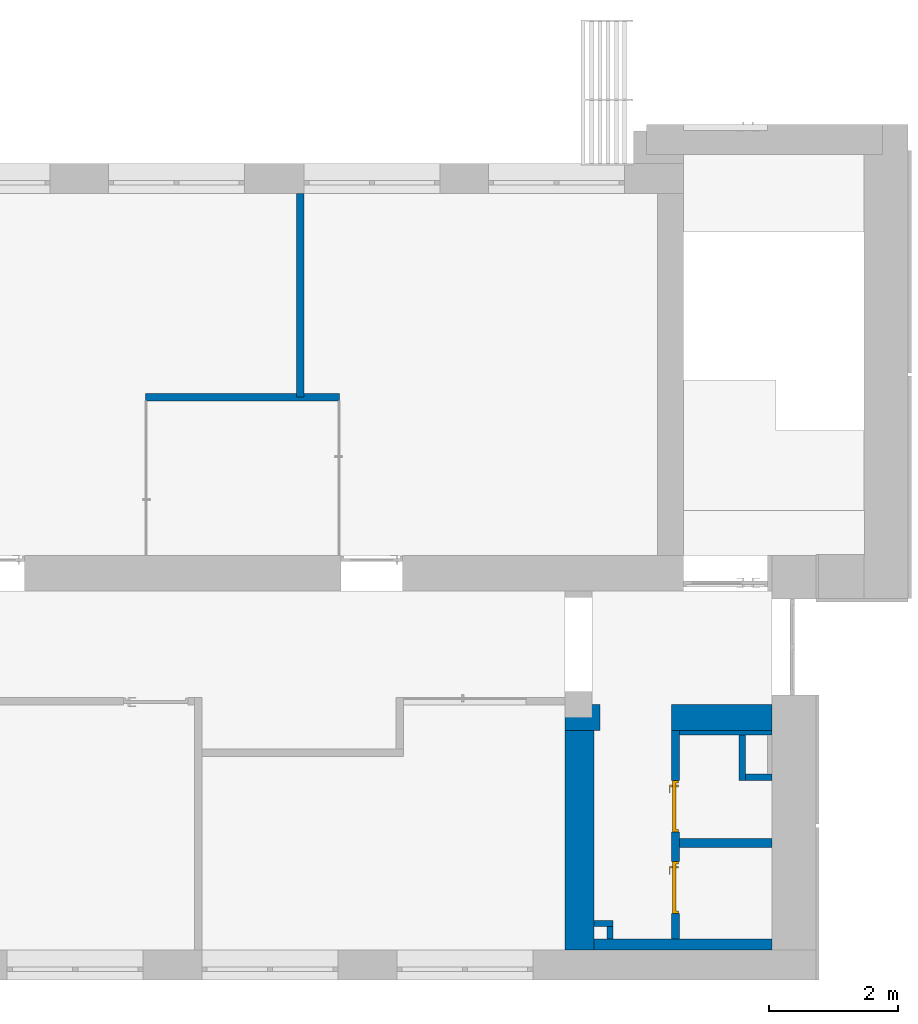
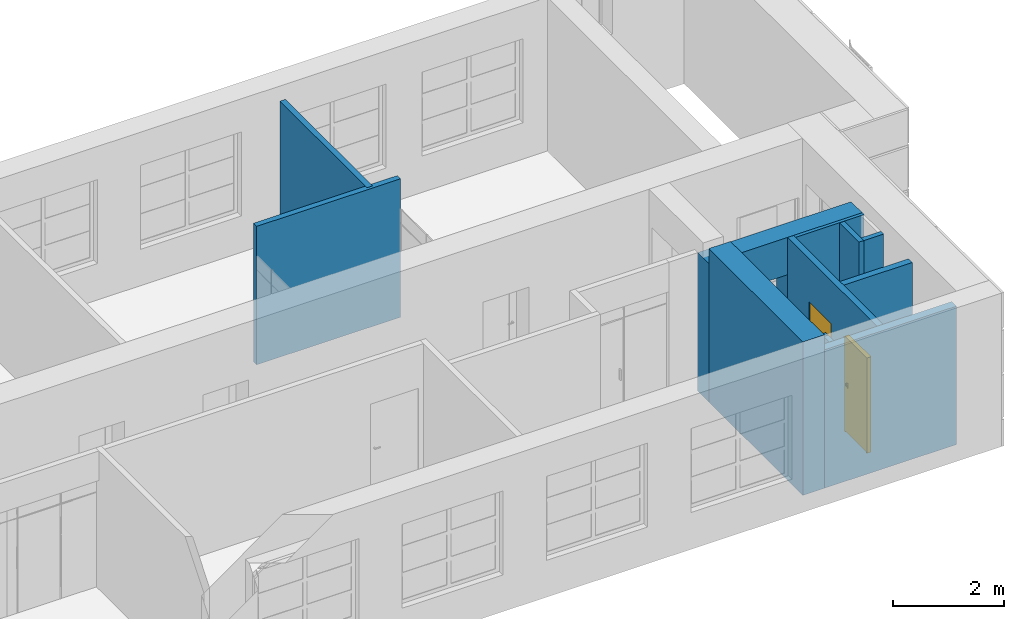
# One storey, part 56 of 66: 12 walls, 2 doors, 13 openings.
"""IFC2X3 building model written with IfcOpenShell, lengths in millimetres."""

import ifcopenshell
import ifcopenshell.guid

model = None  # the IFC model being written
_history = None  # IfcOwnerHistory: only IFC2X3 demands one
_inside = {}  # id of a spatial element -> (the spatial element, [elements in it])
_under = {}  # id of a project, library or spatial element -> (it, [spatial elements below it])
_declared = {}  # id of a project -> (the project, [libraries it declares])
_typed = {}  # id of a type object -> (the type object, [elements of that type])
_made_of = {}  # id of a material, layer set ... -> (it, [elements and type objects made of it])


def new_model(schema):
    """Start an empty IFC model of exactly this schema.

    Asked for "IFC4X3", IfcOpenShell would pick the latest addendum, in which some entities
    have other attributes; the version numbers below select the first issue.
    IFC2X3 requires an IfcOwnerHistory on every rooted entity: one is made here for all.
    """
    global model, _history
    if schema == "IFC4X3":
        model = ifcopenshell.file(schema_version=(4, 3, 0, 0))
    else:
        model = ifcopenshell.file(schema=schema)
    _inside.clear()
    _under.clear()
    _declared.clear()
    _typed.clear()
    _made_of.clear()
    _history = None
    if model.schema == "IFC2X3":
        org = make("IfcOrganization", Name="unknown")
        user = make(
            "IfcPersonAndOrganization",
            ThePerson=make("IfcPerson", FamilyName="unknown"),
            TheOrganization=org,
        )
        app = make(
            "IfcApplication",
            ApplicationDeveloper=org,
            Version="unknown",
            ApplicationFullName="unknown",
            ApplicationIdentifier="unknown",
        )
        _history = make(
            "IfcOwnerHistory",
            OwningUser=user,
            OwningApplication=app,
            ChangeAction="ADDED",
            CreationDate=0,
        )
    return model


def make(cls, **values):
    """One entity of the class cls with the attributes given. An attribute that is None is left unset."""
    return model.create_entity(
        cls, **{name: value for name, value in values.items() if value is not None}
    )


def entity(cls, *values):
    """Any entity or typed value of the class cls, its attributes in the order of the schema. None: left unset."""
    e = model.create_entity(cls)
    for i, value in enumerate(values):
        if value is not None:
            e[i] = value
    return e


def rooted(cls, **values):
    """An entity with a GlobalId (a new one), such as an element, a storey or a relation."""
    return make(cls, GlobalId=ifcopenshell.guid.new(), OwnerHistory=_history, **values)


def si_unit(unit_type, name, prefix=None):
    """IfcSIUnit, for example si_unit("LENGTHUNIT", "METRE", prefix="MILLI")."""
    return make("IfcSIUnit", UnitType=unit_type, Prefix=prefix, Name=name)


def converted_unit(unit_type, name, factor, base, dimensions=None, offset=None):
    """IfcConversionBasedUnit, such as the inch: factor (a typed value) times the base unit."""
    return make(
        "IfcConversionBasedUnit"
        if offset is None
        else "IfcConversionBasedUnitWithOffset",
        ConversionOffset=offset,
        Dimensions=None
        if dimensions is None
        else entity("IfcDimensionalExponents", *dimensions),
        UnitType=unit_type,
        Name=name,
        ConversionFactor=make(
            "IfcMeasureWithUnit", ValueComponent=factor, UnitComponent=base
        ),
    )


def derived_unit(unit_type, elements):
    """IfcDerivedUnit: a product of units, each with its exponent."""
    return make(
        "IfcDerivedUnit",
        Elements=[
            make("IfcDerivedUnitElement", Unit=unit, Exponent=power)
            for unit, power in elements
        ],
        UnitType=unit_type,
    )


def assignment(units):
    """IfcUnitAssignment: the units of a project."""
    return None if units is None else make("IfcUnitAssignment", Units=units)


def point(xyz):
    """IfcCartesianPoint."""
    return None if xyz is None else make("IfcCartesianPoint", Coordinates=xyz)


def direction(xyz):
    """IfcDirection."""
    return None if xyz is None else make("IfcDirection", DirectionRatios=xyz)


def frame(location, z_axis=None, x_axis=None):
    """IfcAxis2Placement3D, a coordinate frame: its origin and axes. An axis left out is left unset."""
    return make(
        "IfcAxis2Placement3D",
        Location=point(location),
        Axis=direction(z_axis),
        RefDirection=direction(x_axis),
    )


def frame_2d(location, x_axis=None):
    """IfcAxis2Placement2D, a coordinate frame in the plane: its origin and x axis."""
    return make(
        "IfcAxis2Placement2D", Location=point(location), RefDirection=direction(x_axis)
    )


def origin():
    """The frame at (0, 0, 0) with its axes left unset."""
    return frame((0.0, 0.0, 0.0))


def origin_2d_with_axis():
    """The frame at (0, 0) in the plane with the x axis (1, 0) written out."""
    return frame_2d((0.0, 0.0), x_axis=(1.0, 0.0))


def place(relative_to, where):
    """IfcLocalPlacement: puts the frame where relative to a parent placement (None: the world)."""
    return make(
        "IfcLocalPlacement", PlacementRelTo=relative_to, RelativePlacement=where
    )


def context(
    kind, dimensions, precision=None, world=None, true_north=None, identifier=None
):
    """IfcGeometricRepresentationContext, for example the 3D "Model" context."""
    return make(
        "IfcGeometricRepresentationContext",
        ContextIdentifier=identifier,
        ContextType=kind,
        CoordinateSpaceDimension=dimensions,
        Precision=precision,
        WorldCoordinateSystem=world,
        TrueNorth=true_north,
    )


def subcontext(parent, identifier, kind, view, scale=None):
    """IfcGeometricRepresentationSubContext, for example "Body" below "Model"."""
    return make(
        "IfcGeometricRepresentationSubContext",
        ContextIdentifier=identifier,
        ContextType=kind,
        ParentContext=parent,
        TargetScale=scale,
        TargetView=view,
    )


def project(units=None, contexts=None):
    """IfcProject with its units and contexts."""
    return rooted(
        "IfcProject",
        Name="project",
        RepresentationContexts=contexts,
        UnitsInContext=assignment(units),
    )


def spatial(cls, under=None, at=None, **own):
    """A site, building, storey or space (cls), placed at a placement, below another one or the project."""
    s = rooted(cls, ObjectPlacement=at, **own)
    if under is not None:
        _under.setdefault(under.id(), (under, []))[1].append(s)
    return s


def polyline(points):
    """IfcPolyline through the points."""
    return make("IfcPolyline", Points=[point(p) for p in points])


def profile(cls, at=None, kind="AREA", **sizes):
    """A parametric profile (cls). Its sizes go by their IFC names, for example OverallWidth=200.0."""
    return make(cls, ProfileType=kind, Position=at, **sizes)


def rectangle(**sizes):
    """IfcRectangleProfileDef."""
    return profile("IfcRectangleProfileDef", **sizes)


def extrude(swept, where, along, depth):
    """IfcExtrudedAreaSolid: the profile swept, set in the frame where, extruded along a direction by depth."""
    return make(
        "IfcExtrudedAreaSolid",
        SweptArea=swept,
        Position=where,
        ExtrudedDirection=direction(along),
        Depth=depth,
    )


def clip(a, b, op="DIFFERENCE"):
    """IfcBooleanClippingResult: the solid a cut by the half space b."""
    return make(
        "IfcBooleanClippingResult", Operator=op, FirstOperand=a, SecondOperand=b
    )


def bounded_halfspace(plane, agree, where, boundary):
    """IfcPolygonalBoundedHalfSpace: a half space limited to a polygon's prism."""
    return make(
        "IfcPolygonalBoundedHalfSpace",
        BaseSurface=make("IfcPlane", Position=plane),
        AgreementFlag=agree,
        Position=where,
        PolygonalBoundary=boundary,
    )


def faces_of(points, faces, orient=None, outer=None):
    """IfcFace entities. A face is a list of loops; a loop is a list of indices into points, from 0.

    orient and outer hold one flag for each loop. By default every Orientation is true, the
    first loop of a face is its IfcFaceOuterBound and the others are IfcFaceBound.
    """
    made = []
    for i, loops in enumerate(faces):
        bounds = []
        for j, loop in enumerate(loops):
            is_outer = j == 0 if outer is None else outer[i][j]
            bounds.append(
                make(
                    "IfcFaceOuterBound" if is_outer else "IfcFaceBound",
                    Bound=make("IfcPolyLoop", Polygon=[points[k] for k in loop]),
                    Orientation=True if orient is None else orient[i][j],
                )
            )
        made.append(make("IfcFace", Bounds=bounds))
    return made


def faceted_brep(points, faces, orient=None, outer=None, voids=None):
    """IfcFacetedBrep: a solid bounded by flat faces; with voids (closed shells), ...WithVoids."""
    shared = [point(p) for p in points]
    hull = make("IfcClosedShell", CfsFaces=faces_of(shared, faces, orient, outer))
    if voids is None:
        return make("IfcFacetedBrep", Outer=hull)
    return make(
        "IfcFacetedBrepWithVoids",
        Outer=hull,
        Voids=[
            make(cls, CfsFaces=faces_of(shared, fs, o, b)) for cls, fs, o, b in voids
        ],
    )


def shape(context_of_items, identifier, shape_type, items):
    """IfcShapeRepresentation: the items that make up one representation, for example the "Body"."""
    return make(
        "IfcShapeRepresentation",
        ContextOfItems=context_of_items,
        RepresentationIdentifier=identifier,
        RepresentationType=shape_type,
        Items=items,
    )


def source(mapping_origin, context_of_items, identifier, shape_type, items):
    """IfcRepresentationMap: a shape defined once, which mapped items show again and again."""
    return make(
        "IfcRepresentationMap",
        MappingOrigin=mapping_origin,
        MappedRepresentation=shape(context_of_items, identifier, shape_type, items),
    )


def transform(
    local_origin,
    x_axis=None,
    y_axis=None,
    z_axis=None,
    scale=None,
    scale2=None,
    scale3=None,
    uniform=True,
):
    """IfcCartesianTransformationOperator3D, or its non-uniform kind. x_axis, y_axis, z_axis: its Axis1, 2, 3."""
    if uniform:
        return make(
            "IfcCartesianTransformationOperator3D",
            Axis1=direction(x_axis),
            Axis2=direction(y_axis),
            LocalOrigin=point(local_origin),
            Scale=scale,
            Axis3=direction(z_axis),
        )
    return make(
        "IfcCartesianTransformationOperator3DnonUniform",
        Axis1=direction(x_axis),
        Axis2=direction(y_axis),
        LocalOrigin=point(local_origin),
        Scale=scale,
        Axis3=direction(z_axis),
        Scale2=scale2,
        Scale3=scale3,
    )


def mapped(mapping_source, mapping_target):
    """IfcMappedItem: shows the shape of a source again, moved by a transform."""
    return make(
        "IfcMappedItem", MappingSource=mapping_source, MappingTarget=mapping_target
    )


def material(Name=None, Category=None):
    """IfcMaterial."""
    return make("IfcMaterial", Name=Name, Category=Category)


def material_list(materials):
    """IfcMaterialList."""
    return make("IfcMaterialList", Materials=materials)


def layer(
    of_material, thickness, ventilated=None, Name=None, Category=None, Priority=None
):
    """IfcMaterialLayer: one layer of a wall or slab, of a material (None: an air gap)."""
    return make(
        "IfcMaterialLayer",
        Material=of_material,
        LayerThickness=thickness,
        IsVentilated=ventilated,
        Name=Name,
        Category=Category,
        Priority=Priority,
    )


def layer_set(layers, Name=None):
    """IfcMaterialLayerSet."""
    return make("IfcMaterialLayerSet", MaterialLayers=layers, LayerSetName=Name)


def layer_usage(for_layer_set, set_direction, sense, offset, extent=None):
    """IfcMaterialLayerSetUsage: how a layer set lies in its element."""
    return make(
        "IfcMaterialLayerSetUsage",
        ForLayerSet=for_layer_set,
        LayerSetDirection=set_direction,
        DirectionSense=sense,
        OffsetFromReferenceLine=offset,
        ReferenceExtent=extent,
    )


def made_of(thing, what):
    """Note that an element or type object is made of a material, layer set ...; save() writes the relation."""
    if what is not None:
        _made_of.setdefault(what.id(), (what, []))[1].append(thing)
    return thing


def type_object(cls, material=None, **own):
    """A type object (cls), such as IfcWallType, which elements share."""
    return made_of(rooted(cls, **own), material)


def type_shapes(of_type, sources):
    """Give a type object the sources (RepresentationMaps) that its elements show as mapped items."""
    of_type.RepresentationMaps = sources


def element(
    cls,
    number,
    at=None,
    inside=None,
    cuts=None,
    type_object=None,
    material=None,
    context=None,
    identifier="Body",
    shape_type=None,
    held_by="IfcProductDefinitionShape",
    body=None,
    shapes=None,
    **own,
):
    """One element of the class cls, such as IfcWall. Its Tag is "e" and its number.

    at: its placement. inside: the storey or other place that contains it. cuts: it is an
    opening in that element (IfcRelVoidsElement). A single representation is given by context,
    identifier, shape_type and body (its items); several are given by shapes. held_by: the class
    of the entity that holds the representations. save() writes the other relations.
    """
    e = rooted(cls, Tag="e%d" % number, ObjectPlacement=at, **own)
    if body is not None:
        shapes = [shape(context, identifier, shape_type, body)]
    if shapes is not None:
        e.Representation = make(held_by, Representations=shapes)
    if inside is not None:
        _inside.setdefault(inside.id(), (inside, []))[1].append(e)
    if cuts is not None:
        rooted(
            "IfcRelVoidsElement", RelatingBuildingElement=cuts, RelatedOpeningElement=e
        )
    if type_object is not None:
        _typed.setdefault(type_object.id(), (type_object, []))[1].append(e)
    return made_of(e, material)


def fill(opening, filler):
    """IfcRelFillsElement: the door or window that sits in an opening."""
    return rooted(
        "IfcRelFillsElement",
        RelatingOpeningElement=opening,
        RelatedBuildingElement=filler,
    )


def aggregate(whole, parts):
    """IfcRelAggregates: a whole, such as a stair, and the parts it consists of."""
    return rooted("IfcRelAggregates", RelatingObject=whole, RelatedObjects=parts)


def save(model, path):
    """Write the relations noted so far, then the file.

    IfcRelAggregates (storeys below a building ...), IfcRelContainedInSpatialStructure (elements
    in a storey), IfcRelDefinesByType, IfcRelAssociatesMaterial and IfcRelDeclares: one each for
    every whole, place, type object, material and project.
    """
    for whole, parts in _under.values():
        aggregate(whole, parts)
    for where, things in _inside.values():
        rooted(
            "IfcRelContainedInSpatialStructure",
            RelatedElements=things,
            RelatingStructure=where,
        )
    for kind, things in _typed.values():
        rooted("IfcRelDefinesByType", RelatedObjects=things, RelatingType=kind)
    for what, things in _made_of.values():
        rooted("IfcRelAssociatesMaterial", RelatedObjects=things, RelatingMaterial=what)
    for by, libraries in _declared.values():
        rooted("IfcRelDeclares", RelatingContext=by, RelatedDefinitions=libraries)
    model.write(path)


model = new_model("IFC2X3")

# Units and contexts
model_context = context("Model", 3, precision=0.01, world=origin(), true_north=direction((6.12303176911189e-17, 1.0)))
body_context = subcontext(model_context, "Body", "Model", "MODEL_VIEW")
ifc_project = project(units=[si_unit("LENGTHUNIT", "METRE", prefix="MILLI"), si_unit("AREAUNIT", "SQUARE_METRE"), si_unit("VOLUMEUNIT", "CUBIC_METRE"), converted_unit("PLANEANGLEUNIT", "DEGREE", entity("IfcRatioMeasure", 0.0174532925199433), si_unit("PLANEANGLEUNIT", "RADIAN"), dimensions=[0, 0, 0, 0, 0, 0, 0]), si_unit("MASSUNIT", "GRAM", prefix="KILO"), derived_unit("MASSDENSITYUNIT", [(si_unit("MASSUNIT", "GRAM", prefix="KILO"), 1), (si_unit("LENGTHUNIT", "METRE"), -3)]), si_unit("TIMEUNIT", "SECOND"), si_unit("FREQUENCYUNIT", "HERTZ"), si_unit("THERMODYNAMICTEMPERATUREUNIT", "DEGREE_CELSIUS"), derived_unit("THERMALTRANSMITTANCEUNIT", [(si_unit("MASSUNIT", "GRAM", prefix="KILO"), 1), (si_unit("THERMODYNAMICTEMPERATUREUNIT", "KELVIN"), -1), (si_unit("TIMEUNIT", "SECOND"), -3)]), derived_unit("VOLUMETRICFLOWRATEUNIT", [(si_unit("LENGTHUNIT", "METRE"), 3), (si_unit("TIMEUNIT", "SECOND"), -1)]), si_unit("ELECTRICCURRENTUNIT", "AMPERE"), si_unit("ELECTRICVOLTAGEUNIT", "VOLT"), si_unit("POWERUNIT", "WATT"), si_unit("FORCEUNIT", "NEWTON", prefix="KILO"), si_unit("ILLUMINANCEUNIT", "LUX"), si_unit("LUMINOUSFLUXUNIT", "LUMEN"), si_unit("LUMINOUSINTENSITYUNIT", "CANDELA"), derived_unit("USERDEFINED", [(si_unit("MASSUNIT", "GRAM", prefix="KILO"), -1), (si_unit("LENGTHUNIT", "METRE"), -2), (si_unit("TIMEUNIT", "SECOND"), 3), (si_unit("LUMINOUSFLUXUNIT", "LUMEN"), 1)]), derived_unit("LINEARVELOCITYUNIT", [(si_unit("LENGTHUNIT", "METRE"), 1), (si_unit("TIMEUNIT", "SECOND"), -1)]), si_unit("PRESSUREUNIT", "PASCAL"), derived_unit("USERDEFINED", [(si_unit("LENGTHUNIT", "METRE"), -2), (si_unit("MASSUNIT", "GRAM", prefix="KILO"), 1), (si_unit("TIMEUNIT", "SECOND"), -2)])], contexts=[model_context])

# Site, building, storey
site_placement = place(None, frame((-151.875543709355, 2715.0, 0.0)))
site = spatial("IfcSite", under=ifc_project, at=site_placement, Name="Surface", CompositionType="ELEMENT")
building_placement = place(site_placement, origin())
building = spatial("IfcBuilding", under=site, at=building_placement, CompositionType="ELEMENT")
storey_placement = place(building_placement, frame((0.0, 0.0, 3350.0)))
storey = spatial("IfcBuildingStorey", under=building, at=storey_placement, Name="2 korrus", CompositionType="ELEMENT", Elevation=3350.00000000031)

# Wall, opening
ifc_material_1 = material(Name="__Hall krohv")
ifc_layer_1 = layer(ifc_material_1, 10.0)
ifc_material_2 = material(Name="Tellis")
ifc_layer_2 = layer(ifc_material_2, 380.0)
ifc_layer_3 = layer(ifc_material_1, 10.0)
ifc_layer_set_1 = layer_set([ifc_layer_1, ifc_layer_2, ifc_layer_3], Name="Basic Wall:SS-01_ol.olev tellissein400")
ifc_layer_usage_1 = layer_usage(ifc_layer_set_1, "AXIS2", "NEGATIVE", 200.0)
wall_type_1 = type_object("IfcWallType", Name="Basic Wall:SS-01_ol.olev tellissein400", PredefinedType="STANDARD", material=ifc_layer_set_1)
wall_1_placement = place(storey_placement, frame((33741.6162682, 4053.84289844, 0.0), z_axis=(0.0, 0.0, 1.0), x_axis=(-1.0, 0.0, 0.0)))
wall_1 = element("IfcWallStandardCase", 1, at=wall_1_placement, inside=storey, type_object=wall_type_1, material=ifc_layer_usage_1, Name="SEIN - 002", ObjectType="Basic Wall:SS-01_ol.olev tellissein400", context=body_context, shape_type="SweptSolid", body=[
    extrude(rectangle(XDim=3197.5991088, YDim=400.0, at=frame_2d((1598.7995544, 0.0), x_axis=(-1.0, 0.0))), origin(), (0.0, 0.0, 1.0), 3050.43203354),
])
opening_1_placement = place(wall_1_placement, origin())
element("IfcOpeningElement", 2, at=opening_1_placement, cuts=wall_1, Name="SEIN - 002", ObjectType="Opening", context=body_context, shape_type="SweptSolid", body=[
    extrude(rectangle(XDim=2230.43203354, YDim=1100.07592736, at=frame_2d((2.27373675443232e-13, 2.1600499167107e-12), x_axis=(1.0, 0.0))), frame((2105.43835439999, -200.0, 1115.21601677), z_axis=(0.0, 1.0, 0.0), x_axis=(0.0, 0.0, -1.0)), (0.0, 0.0, 1.0), 400.0),
])

# Walls
ifc_layer_4 = layer(ifc_material_1, 10.0)
ifc_layer_5 = layer(ifc_material_2, 430.0)
ifc_layer_6 = layer(ifc_material_1, 10.0)
ifc_layer_set_2 = layer_set([ifc_layer_4, ifc_layer_5, ifc_layer_6], Name="Basic Wall:SS-01_ol.olev tellissein450")
ifc_layer_usage_2 = layer_usage(ifc_layer_set_2, "AXIS2", "NEGATIVE", 225.0)
wall_type_2 = type_object("IfcWallType", Name="Basic Wall:SS-01_ol.olev tellissein450", PredefinedType="STANDARD", material=ifc_layer_set_2)
wall_2_placement = place(storey_placement, frame((30769.0171594, 4307.04493399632, 0.0), z_axis=(0.0, 0.0, 1.0), x_axis=(0.0, -1.0, 0.0)))
element("IfcWallStandardCase", 3, at=wall_2_placement, inside=storey, type_object=wall_type_2, material=ifc_layer_usage_2, Name="SEIN - 002", ObjectType="Basic Wall:SS-01_ol.olev tellissein450", context=body_context, shape_type="SweptSolid", body=[
    extrude(rectangle(XDim=3393.93826587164, YDim=450.000000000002, at=frame_2d((2150.17116849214, 0.0), x_axis=(-1.0, 0.0))), origin(), (0.0, 0.0, 1.0), 3380.43203354),
])
ifc_material_3 = material(Name="__Kips GN13_tava")
ifc_layer_7 = layer(ifc_material_3, 12.5)
ifc_layer_8 = layer(ifc_material_3, 12.5)
ifc_material_4 = material(Name="__Soojustus EPS")
ifc_layer_9 = layer(ifc_material_4, 66.0)
ifc_layer_10 = layer(ifc_material_3, 12.5)
ifc_layer_11 = layer(ifc_material_3, 12.5)
ifc_layer_set_3 = layer_set([ifc_layer_7, ifc_layer_8, ifc_layer_9, ifc_layer_10, ifc_layer_11], Name="Basic Wall:SS-3_Kipssein tava ruumide vahel")
ifc_layer_usage_3 = layer_usage(ifc_layer_set_3, "AXIS2", "NEGATIVE", 58.0)
wall_type_3 = type_object("IfcWallType", Name="Basic Wall:SS-3_Kipssein tava ruumide vahel", PredefinedType="STANDARD", material=ifc_layer_set_3)
wall_3_placement = place(storey_placement, frame((26455.0530977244, 12150.0, 0.0), z_axis=(0.0, 0.0, 1.0), x_axis=(0.0, -1.0, 0.0)))
element("IfcWallStandardCase", 4, at=wall_3_placement, inside=storey, type_object=wall_type_3, material=ifc_layer_usage_3, Name="Basic Wall:SS-3_Kipssein tava ruumide vahel", ObjectType="Basic Wall:SS-3_Kipssein tava ruumide vahel", context=body_context, shape_type="SweptSolid", body=[
    extrude(rectangle(XDim=3148.0000000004, YDim=116.0, at=frame_2d((1574.0000000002, 1.74793512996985e-12), x_axis=(-1.0, 0.0))), origin(), (0.0, 0.0, 1.0), 3050.0),
])
ifc_layer_usage_4 = layer_usage(ifc_layer_set_3, "AXIS2", "NEGATIVE", 58.0)
wall_4_placement = place(storey_placement, frame((27063.2859998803, 9003.0, 0.0), z_axis=(0.0, 0.0, 1.0), x_axis=(-1.0, 0.0, 0.0)))
element("IfcWallStandardCase", 5, at=wall_4_placement, inside=storey, type_object=wall_type_3, material=ifc_layer_usage_4, Name="Basic Wall:SS-3_Kipssein tava ruumide vahel", ObjectType="Basic Wall:SS-3_Kipssein tava ruumide vahel", context=body_context, shape_type="Clipping", body=[
    clip(extrude(rectangle(XDim=3000.00000000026, YDim=116.0, at=frame_2d((1500.00000000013, 3.90798504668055e-14), x_axis=(-1.0, 0.0))), origin(), (0.0, 0.0, 1.0), 3050.0), bounded_halfspace(frame((666.232902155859, 1.0, 0.0), z_axis=(0.0, 1.0, 0.0), x_axis=(-1.0, 0.0, 0.0)), True, frame((666.232902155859, 1.0, 0.0), z_axis=(0.0, 1.0, 0.0), x_axis=(-1.0, 0.0, 0.0)), polyline([(0.0, 0.0), (116.0, 0.0), (116.0, 3050.0), (0.0, 3050.0), (0.0, 0.0)]))),
])

# Wall, openings
ifc_layer_12 = layer(ifc_material_2, 160.0)
ifc_layer_13 = layer(ifc_material_1, 10.0)
ifc_layer_set_4 = layer_set([ifc_layer_12, ifc_layer_13], Name="Basic Wall:SS-01_ol.olev tellissein170")
ifc_layer_usage_5 = layer_usage(ifc_layer_set_4, "AXIS2", "NEGATIVE", 85.0)
wall_type_4 = type_object("IfcWallType", Name="Basic Wall:SS-01_ol.olev tellissein170", PredefinedType="STANDARD", material=ifc_layer_set_4)
wall_5_placement = place(storey_placement, frame((33741.6162682, 544.904632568, 0.0), z_axis=(0.0, 0.0, 1.0), x_axis=(-1.0, 0.0, 0.0)))
wall_5 = element("IfcWallStandardCase", 6, at=wall_5_placement, inside=storey, type_object=wall_type_4, material=ifc_layer_usage_5, Name="SEIN - 001", ObjectType="Basic Wall:SS-01_ol.olev tellissein170", context=body_context, shape_type="SweptSolid", body=[
    extrude(rectangle(XDim=2747.5991088, YDim=170.0, at=frame_2d((1373.7995544, 0.0), x_axis=(-1.0, 0.0))), origin(), (0.0, 0.0, 1.0), 3048.26104657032),
])
opening_2_placement = place(wall_5_placement, origin())
element("IfcOpeningElement", 7, at=opening_2_placement, cuts=wall_5, Name="SEIN - 001", ObjectType="Opening", context=body_context, shape_type="SweptSolid", body=[
    extrude(rectangle(XDim=1850.0, YDim=2100.0, at=frame_2d((-2.8421709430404e-13, 1.02318153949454e-12), x_axis=(1.0, 0.0))), frame((22792.0515417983, -382.900000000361, 1734.628696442), z_axis=(0.0, 1.0, 0.0), x_axis=(0.0, 0.0, 1.0)), (0.0, 0.0, 1.0), 1393.8),
])
opening_3_placement = place(wall_5_placement, origin())
element("IfcOpeningElement", 8, at=opening_3_placement, cuts=wall_5, Name="SEIN - 001", ObjectType="Opening", context=body_context, shape_type="SweptSolid", body=[
    extrude(rectangle(XDim=1850.0, YDim=2100.0, at=frame_2d((-2.8421709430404e-13, 5.6843418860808e-13), x_axis=(1.0, 0.0))), frame((25792.0515418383, -382.900000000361, 1734.628696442), z_axis=(0.0, 1.0, 0.0), x_axis=(0.0, 0.0, 1.0)), (0.0, 0.0, 1.0), 1393.8),
])
opening_4_placement = place(wall_5_placement, origin())
element("IfcOpeningElement", 9, at=opening_4_placement, cuts=wall_5, Name="SEIN - 001", ObjectType="Opening", context=body_context, shape_type="SweptSolid", body=[
    extrude(rectangle(XDim=1850.0, YDim=2100.0, at=frame_2d((-2.8421709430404e-13, 0.0), x_axis=(1.0, 0.0))), frame((19792.0515417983, -382.900000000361, 1734.628696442), z_axis=(0.0, 1.0, 0.0), x_axis=(0.0, 0.0, 1.0)), (0.0, 0.0, 1.0), 1393.8),
])
opening_5_placement = place(wall_5_placement, origin())
element("IfcOpeningElement", 10, at=opening_5_placement, cuts=wall_5, Name="SEIN - 001", ObjectType="Opening", context=body_context, shape_type="SweptSolid", body=[
    extrude(rectangle(XDim=1850.0, YDim=2100.0, at=frame_2d((-2.8421709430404e-13, 1.02318153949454e-12), x_axis=(1.0, 0.0))), frame((16772.0515417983, -382.900000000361, 1734.628696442), z_axis=(0.0, 1.0, 0.0), x_axis=(0.0, 0.0, 1.0)), (0.0, 0.0, 1.0), 1393.8),
])
opening_6_placement = place(wall_5_placement, origin())
element("IfcOpeningElement", 11, at=opening_6_placement, cuts=wall_5, Name="SEIN - 001", ObjectType="Opening", context=body_context, shape_type="SweptSolid", body=[
    extrude(rectangle(XDim=1850.0, YDim=2100.0, at=frame_2d((-2.8421709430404e-13, 0.0), x_axis=(1.0, 0.0))), frame((13762.0515417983, -382.900000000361, 1734.628696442), z_axis=(0.0, 1.0, 0.0), x_axis=(0.0, 0.0, 1.0)), (0.0, 0.0, 1.0), 1393.8),
])
opening_7_placement = place(wall_5_placement, origin())
element("IfcOpeningElement", 12, at=opening_7_placement, cuts=wall_5, Name="SEIN - 001", ObjectType="Opening", context=body_context, shape_type="SweptSolid", body=[
    extrude(rectangle(XDim=1850.0, YDim=2100.0, at=frame_2d((-2.8421709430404e-13, 0.0), x_axis=(1.0, 0.0))), frame((10762.0515417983, -382.900000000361, 1734.628696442), z_axis=(0.0, 1.0, 0.0), x_axis=(0.0, 0.0, 1.0)), (0.0, 0.0, 1.0), 1393.8),
])
opening_8_placement = place(wall_5_placement, origin())
element("IfcOpeningElement", 13, at=opening_8_placement, cuts=wall_5, Name="SEIN - 001", ObjectType="Opening", context=body_context, shape_type="SweptSolid", body=[
    extrude(rectangle(XDim=1850.0, YDim=2100.0, at=frame_2d((-2.8421709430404e-13, 0.0), x_axis=(1.0, 0.0))), frame((7752.05154179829, -382.900000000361, 1734.628696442), z_axis=(0.0, 1.0, 0.0), x_axis=(0.0, 0.0, 1.0)), (0.0, 0.0, 1.0), 1393.8),
])
opening_9_placement = place(wall_5_placement, origin())
element("IfcOpeningElement", 14, at=opening_9_placement, cuts=wall_5, Name="SEIN - 001", ObjectType="Opening", context=body_context, shape_type="SweptSolid", body=[
    extrude(rectangle(XDim=1850.0, YDim=2100.0, at=frame_2d((-2.8421709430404e-13, 0.0), x_axis=(1.0, 0.0))), frame((4742.05154179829, -382.900000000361, 1734.628696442), z_axis=(0.0, 1.0, 0.0), x_axis=(0.0, 0.0, 1.0)), (0.0, 0.0, 1.0), 1393.8),
])
opening_10_placement = place(wall_5_placement, origin())
element("IfcOpeningElement", 15, at=opening_10_placement, cuts=wall_5, Name="SEIN - 001", ObjectType="Opening", context=body_context, shape_type="SweptSolid", body=[
    extrude(rectangle(XDim=2124.86776352, YDim=4200.0, at=frame_2d((2.27373675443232e-13, -5.6843418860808e-13), x_axis=(0.0, 1.0))), frame((30257.7624512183, -383.200000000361, 1872.43388176), z_axis=(0.0, 1.0, 0.0), x_axis=(1.0, 0.0, 0.0)), (0.0, 0.0, 1.0), 1393.8),
])
opening_11_placement = place(wall_5_placement, origin())
element("IfcOpeningElement", 16, at=opening_11_placement, cuts=wall_5, Name="SEIN - 001", ObjectType="Opening", context=body_context, shape_type="SweptSolid", body=[
    extrude(rectangle(XDim=445.564270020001, YDim=4200.0, at=origin_2d_with_axis()), frame((30257.7624512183, -383.200000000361, 3157.64989853), z_axis=(0.0, 1.0, 0.0), x_axis=(0.0, 0.0, -1.0)), (0.0, 0.0, 1.0), 1393.8),
])

# Walls
ifc_layer_14 = layer(ifc_material_2, 60.0)
ifc_layer_15 = layer(ifc_material_1, 10.0)
ifc_layer_set_5 = layer_set([ifc_layer_14, ifc_layer_15], Name="Basic Wall:SS-01_ol.olev tellissein70")
ifc_layer_usage_6 = layer_usage(ifc_layer_set_5, "AXIS2", "NEGATIVE", 35.0)
wall_type_5 = type_object("IfcWallType", Name="Basic Wall:SS-01_ol.olev tellissein70", PredefinedType="STANDARD", material=ifc_layer_set_5)
wall_6_placement = place(storey_placement, frame((32312.2158775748, 3818.84289844, 0.0)))
element("IfcWallStandardCase", 17, at=wall_6_placement, inside=storey, type_object=wall_type_5, material=ifc_layer_usage_6, Name="SEIN - 002", ObjectType="Basic Wall:SS-01_ol.olev tellissein70", context=body_context, shape_type="SweptSolid", body=[
    extrude(rectangle(XDim=1429.40039062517, YDim=70.0000000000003, at=frame_2d((714.700195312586, 0.0), x_axis=(-1.0, 0.0))), origin(), (0.0, 0.0, 1.0), 3051.38700775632),
])
ifc_material_5 = material(Name="Keraamiline_plaat")
ifc_layer_16 = layer(ifc_material_5, 10.0)
ifc_material_6 = material(Name="__Kips GKB_niiskuskindel")
ifc_layer_17 = layer(ifc_material_6, 12.5)
ifc_layer_18 = layer(ifc_material_6, 12.5)
ifc_layer_19 = layer(ifc_material_4, 66.0)
ifc_layer_20 = layer(ifc_material_6, 12.5)
ifc_layer_21 = layer(ifc_material_6, 12.5)
ifc_layer_22 = layer(ifc_material_5, 10.0)
ifc_layer_set_6 = layer_set([ifc_layer_16, ifc_layer_17, ifc_layer_18, ifc_layer_19, ifc_layer_20, ifc_layer_21, ifc_layer_22], Name="Basic Wall:SS-5_Kipssein niiskete ruumide vahel")
ifc_layer_usage_7 = layer_usage(ifc_layer_set_6, "AXIS2", "NEGATIVE", 68.0)
wall_type_6 = type_object("IfcWallType", Name="Basic Wall:SS-5_Kipssein niiskete ruumide vahel", PredefinedType="STANDARD", material=ifc_layer_set_6)
wall_7_placement = place(storey_placement, frame((33741.6162682, 2115.77522812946, 0.0), z_axis=(0.0, 0.0, 1.0), x_axis=(-1.0, 0.0, 0.0)))
element("IfcWallStandardCase", 18, at=wall_7_placement, inside=storey, type_object=wall_type_6, material=ifc_layer_usage_7, Name="Basic Wall:SS-5_Kipssein niiskete ruumide vahel", ObjectType="Basic Wall:SS-5_Kipssein niiskete ruumide vahel", context=body_context, shape_type="SweptSolid", body=[
    extrude(rectangle(XDim=1429.40039062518, YDim=136.0, at=frame_2d((714.700195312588, 0.0), x_axis=(-1.0, 0.0))), origin(), (0.0, 0.0, 1.0), 3050.0),
])

# Wall, openings, doors
ifc_layer_23 = layer(ifc_material_3, 12.5)
ifc_layer_24 = layer(ifc_material_3, 12.5)
ifc_layer_25 = layer(ifc_material_4, 66.0)
ifc_layer_26 = layer(ifc_material_6, 12.5)
ifc_layer_27 = layer(ifc_material_6, 12.5)
ifc_layer_28 = layer(ifc_material_5, 10.0)
ifc_layer_set_7 = layer_set([ifc_layer_23, ifc_layer_24, ifc_layer_25, ifc_layer_26, ifc_layer_27, ifc_layer_28], Name="Basic Wall:SS-4_Kipssein tava ja niiske ruumi vahel")
ifc_layer_usage_8 = layer_usage(ifc_layer_set_7, "AXIS2", "NEGATIVE", 63.0)
wall_type_7 = type_object("IfcWallType", Name="Basic Wall:SS-4_Kipssein tava ja niiske ruumi vahel", PredefinedType="STANDARD", material=ifc_layer_set_7)
wall_8_placement = place(storey_placement, frame((32249.2158775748, 629.904632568, 0.0), z_axis=(0.0, 0.0, 1.0), x_axis=(0.0, 1.0, 0.0)))
wall_8 = element("IfcWallStandardCase", 19, at=wall_8_placement, inside=storey, type_object=wall_type_7, material=ifc_layer_usage_8, Name="Basic Wall:SS-4_Kipssein tava ja niiske ruumi vahel", ObjectType="Basic Wall:SS-4_Kipssein tava ja niiske ruumi vahel", context=body_context, shape_type="SweptSolid", body=[
    extrude(rectangle(XDim=3223.938265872, YDim=125.999999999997, at=frame_2d((1611.969132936, 0.0), x_axis=(-1.0, 0.0))), origin(), (0.0, 0.0, 1.0), 3050.0),
])
opening_12_placement = place(wall_8_placement, frame((397.813171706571, -63.0, 0.0)))
opening_12 = element("IfcOpeningElement", 20, at=opening_12_placement, cuts=wall_8, Name="Ühepoolsed:SU-05:1", ObjectType="Opening", context=body_context, shape_type="SweptSolid", body=[
    extrude(rectangle(XDim=2099.99999999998, YDim=800.0, at=frame_2d((1049.99999999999, 400.0), x_axis=(1.0, 0.0))), frame((0.0, 0.0, 0.0), z_axis=(0.0, 1.0, 0.0), x_axis=(0.0, 0.0, 1.0)), (0.0, 0.0, 1.0), 126.0),
])
opening_13_placement = place(wall_8_placement, frame((1653.87059556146, -63.0, 0.0)))
opening_13 = element("IfcOpeningElement", 21, at=opening_13_placement, cuts=wall_8, Name="Ühepoolsed:SU-05:1", ObjectType="Opening", context=body_context, shape_type="SweptSolid", body=[
    extrude(rectangle(XDim=2099.99999999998, YDim=800.0, at=frame_2d((1049.99999999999, 400.0), x_axis=(1.0, 0.0))), frame((0.0, 0.0, 0.0), z_axis=(0.0, 1.0, 0.0), x_axis=(0.0, 0.0, 1.0)), (0.0, 0.0, 1.0), 126.0),
])
ifc_material_7 = material(Name="_Alumiiniumprofiil - must")
ifc_material_8 = material(Name="__Uks_hele tamm")
ifc_material_list_1 = material_list([ifc_material_7, ifc_material_8])
ifc_material_list_2 = material_list([ifc_material_7, ifc_material_8])
door_style = type_object("IfcDoorStyle", Name="SU-05", ConstructionType="NOTDEFINED", OperationType="FOLDING_TO_LEFT", ParameterTakesPrecedence=False, Sizeable=False, material=ifc_material_list_2)
shared_shape = source(origin(), body_context, "Body", "Brep", [
    faceted_brep([(700.0, 16.0, 1112.5), (605.0, 16.0, 1112.5), (605.0, 11.0, 1112.5), (725.0, 11.0, 1112.5), (725.0, 54.0, 1112.5), (700.0, 54.0, 1112.5), (700.0, 16.0, 1087.5), (700.0, 54.0, 1087.5), (725.0, 54.0, 1087.5), (725.0, 11.0, 1087.5), (605.0, 11.0, 1087.5), (605.0, 16.0, 1087.5)], [[[0, 1, 2, 3, 4, 5]], [[6, 7, 8, 9, 10, 11]], [[5, 7, 6, 0]], [[4, 8, 7, 5]], [[3, 9, 8, 4]], [[2, 10, 9, 3]], [[1, 11, 10, 2]], [[0, 6, 11, 1]]]),
    faceted_brep([(687.500000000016, 54.0, 1137.5), (737.500000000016, 54.0, 1137.5), (737.500000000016, 56.0, 1137.5), (687.500000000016, 56.0, 1137.5), (687.500000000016, 54.0, 1017.5), (687.500000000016, 56.0, 1017.5), (737.500000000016, 56.0, 1017.5), (737.500000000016, 54.0, 1017.5)], [[[0, 1, 2, 3]], [[4, 5, 6, 7]], [[3, 5, 4, 0]], [[2, 6, 5, 3]], [[1, 7, 6, 2]], [[0, 4, 7, 1]]]),
    faceted_brep([(700.0, 146.0, 1112.5), (700.0, 108.0, 1112.5), (725.0, 108.0, 1112.5), (725.0, 151.0, 1112.5), (605.0, 151.0, 1112.5), (605.0, 146.0, 1112.5), (700.0, 146.0, 1087.5), (605.0, 146.0, 1087.5), (605.0, 151.0, 1087.5), (725.0, 151.0, 1087.5), (725.0, 108.0, 1087.5), (700.0, 108.0, 1087.5)], [[[0, 1, 2, 3, 4, 5]], [[6, 7, 8, 9, 10, 11]], [[1, 0, 6, 11]], [[2, 1, 11, 10]], [[3, 2, 10, 9]], [[4, 3, 9, 8]], [[5, 4, 8, 7]], [[0, 5, 7, 6]]]),
    faceted_brep([(687.500000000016, 108.0, 1137.5), (687.500000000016, 106.0, 1137.5), (737.500000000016, 106.0, 1137.5), (737.500000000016, 108.0, 1137.5), (687.500000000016, 108.0, 1017.5), (737.500000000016, 108.0, 1017.5), (737.500000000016, 106.0, 1017.5), (687.500000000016, 106.0, 1017.5)], [[[0, 1, 2, 3]], [[4, 5, 6, 7]], [[1, 0, 4, 7]], [[2, 1, 7, 6]], [[3, 2, 6, 5]], [[0, 3, 5, 4]]]),
    faceted_brep([(0.0, 16.0, 0.0), (0.0, 106.0, 0.0), (25.0, 106.0, 0.0), (25.0, 56.0, 0.0), (40.0, 56.0, 0.0), (40.0, 16.0, 0.0), (40.0, 16.0, 2060.0), (760.0, 16.0, 2060.0), (760.0, 16.0, 0.0), (800.0, 16.0, 0.0), (800.0, 16.0, 2100.0), (0.0, 16.0, 2100.0), (40.0, 56.0, 2060.0), (25.0, 56.0, 2075.0), (775.0, 56.0, 2075.0), (775.0, 56.0, 0.0), (760.0, 56.0, 0.0), (760.0, 56.0, 2060.0), (25.0, 106.0, 2075.0), (0.0, 106.0, 2100.0), (800.0, 106.0, 2100.0), (800.0, 106.0, 0.0), (775.0, 106.0, 0.0), (775.0, 106.0, 2075.0)], [[[0, 1, 2, 3, 4, 5]], [[5, 6, 7, 8, 9, 10, 11, 0]], [[4, 12, 6, 5]], [[3, 13, 14, 15, 16, 17, 12, 4]], [[2, 18, 13, 3]], [[1, 19, 20, 21, 22, 23, 18, 2]], [[0, 11, 19, 1]], [[9, 21, 20, 10]], [[8, 16, 15, 22, 21, 9]], [[7, 17, 16, 8]], [[14, 23, 22, 15]], [[6, 12, 17, 7]], [[13, 18, 23, 14]], [[10, 20, 19, 11]]]),
    faceted_brep([(775.0, 56.0, 2075.0), (25.0, 56.0, 2075.0), (25.0, 56.0, 20.0), (775.0, 56.0, 20.0), (775.0, 106.0, 2075.0), (775.0, 106.0, 20.0), (25.0, 106.0, 20.0), (25.0, 106.0, 2075.0)], [[[0, 1, 2, 3]], [[4, 5, 6, 7]], [[3, 5, 4, 0]], [[2, 6, 5, 3]], [[1, 7, 6, 2]], [[0, 4, 7, 1]]]),
])
type_shapes(door_style, [shared_shape])
door_1_placement = place(opening_12_placement, origin())
door_1 = element("IfcDoor", 22, at=door_1_placement, inside=storey, type_object=door_style, material=ifc_material_list_1, Name="Ühepoolsed:SU-05", ObjectType="SU-05", OverallHeight=2099.99999999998, OverallWidth=800.0, context=body_context, shape_type="MappedRepresentation", body=[
    mapped(shared_shape, transform((0.0, 0.0, 0.0), scale=1.0)),
])
fill(opening_12, door_1)
ifc_material_list_3 = material_list([ifc_material_7, ifc_material_8])
door_2_placement = place(opening_13_placement, origin())
door_2 = element("IfcDoor", 23, at=door_2_placement, inside=storey, type_object=door_style, material=ifc_material_list_3, Name="Ühepoolsed:SU-05", ObjectType="SU-05", OverallHeight=2099.99999999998, OverallWidth=800.0, context=body_context, shape_type="MappedRepresentation", body=[
    mapped(shared_shape, transform((0.0, 0.0, 0.0), scale=1.0)),
])
fill(opening_13, door_2)

# Walls
ifc_material_9 = material(Name="__Helehall")
ifc_layer_29 = layer(ifc_material_9, 10.0)
ifc_material_10 = material(Name="__Kergblokk")
ifc_layer_30 = layer(ifc_material_10, 90.0)
ifc_layer_set_8 = layer_set([ifc_layer_29, ifc_layer_30], Name="Basic Wall:SS-6_Šahti sein EI-60")
ifc_layer_usage_9 = layer_usage(ifc_layer_set_8, "AXIS2", "POSITIVE", -50.0)
wall_type_8 = type_object("IfcWallType", Name="Basic Wall:SS-6_Šahti sein EI-60", PredefinedType="STANDARD", material=ifc_layer_set_8)
wall_9_placement = place(storey_placement, frame((33331.6162681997, 3133.77522812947, 0.0)))
element("IfcWallStandardCase", 24, at=wall_9_placement, inside=storey, type_object=wall_type_8, material=ifc_layer_usage_9, Name="Basic Wall:SS-6_Šahti sein EI-60", ObjectType="Basic Wall:SS-6_Šahti sein EI-60", context=body_context, shape_type="SweptSolid", body=[
    extrude(rectangle(XDim=410.00000000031, YDim=100.0, at=frame_2d((205.000000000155, 0.0), x_axis=(-1.0, 0.0))), origin(), (0.0, 0.0, 1.0), 3048.26104657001),
])
ifc_layer_usage_10 = layer_usage(ifc_layer_set_8, "AXIS2", "POSITIVE", -50.0)
wall_10_placement = place(storey_placement, frame((33281.6162681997, 3783.84289844, 0.0), z_axis=(0.0, 0.0, 1.0), x_axis=(0.0, -1.0, 0.0)))
element("IfcWallStandardCase", 25, at=wall_10_placement, inside=storey, type_object=wall_type_8, material=ifc_layer_usage_10, Name="Basic Wall:SS-6_Šahti sein EI-60", ObjectType="Basic Wall:SS-6_Šahti sein EI-60", context=body_context, shape_type="SweptSolid", body=[
    extrude(rectangle(XDim=700.067670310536, YDim=100.000000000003, at=frame_2d((350.033835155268, -6.50146603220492e-13), x_axis=(-1.0, 0.0))), origin(), (0.0, 0.0, 1.0), 3048.26104657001),
])
ifc_layer_31 = layer(ifc_material_3, 12.5)
ifc_layer_32 = layer(ifc_material_3, 12.5)
ifc_layer_33 = layer(ifc_material_4, 66.0)
ifc_layer_set_9 = layer_set([ifc_layer_31, ifc_layer_32, ifc_layer_33], Name="Basic Wall:Kipssein šahtile")
ifc_layer_usage_11 = layer_usage(ifc_layer_set_9, "AXIS2", "POSITIVE", -45.5)
wall_type_9 = type_object("IfcWallType", Name="Basic Wall:Kipssein šahtile", PredefinedType="STANDARD", material=ifc_layer_set_9)
wall_11_placement = place(storey_placement, frame((31285.0171594, 875.404632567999, 0.0), z_axis=(0.0, 0.0, 1.0), x_axis=(-1.0, 0.0, 0.0)))
element("IfcWallStandardCase", 26, at=wall_11_placement, inside=storey, type_object=wall_type_9, material=ifc_layer_usage_11, Name="Basic Wall:Kipssein šahtile", ObjectType="Basic Wall:Kipssein šahtile", context=body_context, shape_type="SweptSolid", body=[
    extrude(rectangle(XDim=290.999999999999, YDim=90.9999999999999, at=frame_2d((145.499999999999, 3.5527136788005e-14), x_axis=(-1.0, 0.0))), origin(), (0.0, 0.0, 1.0), 3050.0),
])
ifc_layer_usage_12 = layer_usage(ifc_layer_set_9, "AXIS2", "POSITIVE", -45.5)
wall_12_placement = place(storey_placement, frame((31239.5171594, 629.904632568, 0.0), z_axis=(0.0, 0.0, 1.0), x_axis=(0.0, 1.0, 0.0)))
element("IfcWallStandardCase", 27, at=wall_12_placement, inside=storey, type_object=wall_type_9, material=ifc_layer_usage_12, Name="Basic Wall:Kipssein šahtile", ObjectType="Basic Wall:Kipssein šahtile", context=body_context, shape_type="SweptSolid", body=[
    extrude(rectangle(XDim=199.999999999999, YDim=90.9999999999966, at=frame_2d((99.9999999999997, 3.90798504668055e-14), x_axis=(-1.0, 0.0))), origin(), (0.0, 0.0, 1.0), 3050.0),
])

save(model, "model.ifc")
